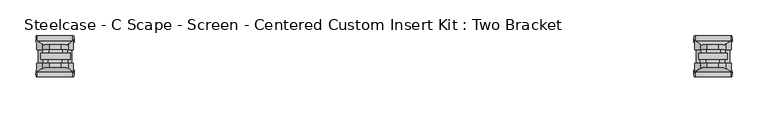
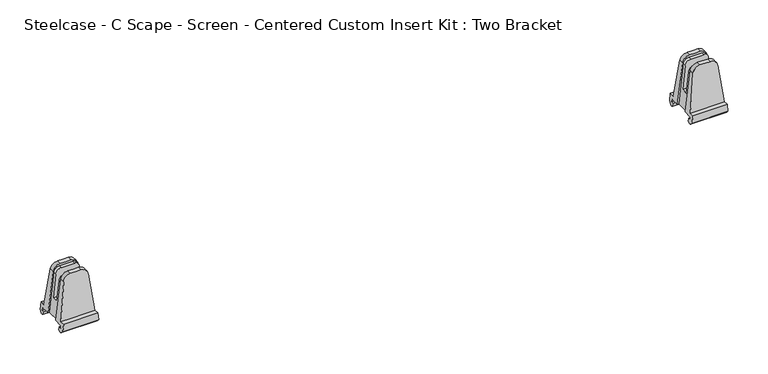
"""IFC4 building model written with IfcOpenShell, lengths in millimetres: furniture geometry, Steelcase - C Scape - Screen - Centered Custom Insert Kit : Two Bracket."""

from ifc_helpers import new_model, si_unit, frame, origin, place, context, project, spatial, circle_curve, ellipse_curve, source, transform, mapped, element, save
from ifc_brep_helpers import plane_surface, cylinder_surface, advanced_brep


def steelcase_c_scape_screen_centered_custom_insert_kit_two_697168f0(model_context):
    return source(origin(), model_context, "Body", "AdvancedBrep", [
        advanced_brep(
        [(981.2649563, -3.1752569, 793.5976353), (988.8687419, -3.1752569, 793.5976353), (996.5149668, -3.1752569, 793.5976353), (996.5149668, 3.17474, 793.5976353), (988.8687419, 3.17474, 793.5976353), (981.2649563, 3.17474, 793.5976353), (970.9537645, -3.1752569, 784.4759275), (963.5101946, -3.1752569, 723.9), (965.5940991, -3.1752569, 723.9), (971.8526704, -3.1752569, 783.4463283), (979.8545253, -3.1752569, 790.6512308), (999.4524021, -3.1752569, 790.6512308), (1005.7679246, -3.1752569, 784.9620449), (1012.1570489, -3.1752569, 723.9), (1014.2697285, -3.1752569, 723.9), (1006.8261585, -3.1752569, 784.4759275), (963.5101946, 10.1600734, 723.9), (1014.2697285, 10.1600734, 723.9), (1012.1570489, -22.2252569, 723.9), (1014.2697285, -22.2250614, 723.9), (1014.2697285, -35.5603917, 723.9), (963.5101946, -35.5603917, 723.9), (963.5101946, -22.2250614, 723.9), (965.5940991, -22.2250614, 723.9), (963.0415467, 10.1600734, 720.086134), (1014.7383764, 10.1600734, 720.086134), (963.0415467, 6.7312129, 720.086134), (1014.7383764, 6.7312129, 720.086134), (962.5109536, 6.7312129, 715.7681562), (1015.2689695, 6.7312129, 715.7681562), (962.3003055, 9.1438564, 714.375), (1015.4371783, 9.1438564, 714.375), (962.3397626, 11.8111354, 714.375), (1015.4371783, 11.8111354, 714.375), (962.8079371, 15.6202052, 718.1850145), (1014.9719859, 15.6202052, 718.1850145), (964.1562753, 15.6202052, 729.1578186), (1013.6236478, 15.6202052, 729.1578186), (964.1562753, 8.8135415, 729.1578186), (1013.6236478, 8.8135415, 729.1578186), (970.9537645, 3.9729344, 784.4759275), (1006.8261585, 3.9729344, 784.4759275), (964.1562753, -34.2138598, 729.1578186), (1013.6236478, -34.2138598, 729.1578186), (1006.8261585, -29.3732527, 784.4759275), (996.5149668, -28.5750583, 793.5976353), (988.8687419, -28.5750583, 793.5976353), (981.2649563, -28.5750583, 793.5976353), (970.9537645, -29.3732527, 784.4759275), (964.1562753, -41.0205235, 729.1578186), (1013.6236478, -41.0205235, 729.1578186), (962.8079371, -41.0205235, 718.1850145), (1014.9719859, -41.0205235, 718.1850145), (962.3003055, -37.2114537, 714.375), (1015.4371783, -37.2114537, 714.375), (962.3397626, -34.5441746, 714.375), (1015.4371783, -34.5441746, 714.375), (962.5109536, -32.1315312, 715.7681562), (1015.2689695, -32.1315312, 715.7681562), (963.0415467, -32.1315312, 720.086134), (1014.7383764, -32.1315312, 720.086134), (963.0415467, -35.5603917, 720.086134), (1014.7383764, -35.5603917, 720.086134), (981.2649563, -22.2250614, 793.5976353), (988.8687419, -22.2250614, 793.5976353), (996.5149668, -22.2250614, 793.5976353), (1006.8261585, -22.2250614, 784.4759275), (1006.3100885, -22.2250614, 779.780484), (998.5284113, -22.2250614, 786.79042), (979.001828, -22.2250614, 786.79042), (971.4935976, -22.2250614, 780.0299789), (970.9537645, -22.2250614, 784.4759275), (979.001828, -17.4500569, 786.79042), (998.5284113, -17.4500569, 786.79042), (1006.3100885, -17.4500569, 779.780484), (1009.5950426, -17.4500569, 748.3855694), (968.1676361, -17.4500569, 748.3855694), (971.4935976, -17.4500569, 780.0299789), (968.1676361, -7.9504569, 748.3855694), (971.8526704, -7.9504569, 783.4463283), (1005.7679246, -7.9504569, 784.9620449), (1009.5950426, -7.9504569, 748.3855694), (979.8545253, -7.9504569, 790.6512308), (999.4524021, -7.9504569, 790.6512308)],
        [
            (0, 1),
            (1, 2),
            (2, 3),
            (3, 4),
            (4, 5),
            (5, 0),
            (0, 6, circle_curve(frame((981.2649563, -3.1752569, 783.2088883), z_axis=(0.0, -1.0, 0.0), x_axis=(-1.0, 0.0, 0.0)), 10.388747)),
            (6, 7),
            (7, 8),
            (8, 9),
            (9, 10, circle_curve(frame((979.8545253, -3.1752569, 782.6052995), z_axis=(0.0, 1.0, 0.0), x_axis=(1.0, 0.0, 0.0)), 8.0459313)),
            (10, 11),
            (11, 12, circle_curve(frame((999.4524021, -3.1752569, 784.3012308), z_axis=(0.0, 1.0, 0.0), x_axis=(1.0, 0.0, 0.0)), 6.35)),
            (12, 13),
            (13, 14),
            (14, 15),
            (15, 2, circle_curve(frame((996.5149668, -3.1752569, 783.2088883), z_axis=(0.0, -1.0, 0.0), x_axis=(1.0, 0.0, 0.0)), 10.388747)),
            (16, 17),
            (17, 14),
            (13, 18),
            (18, 19),
            (19, 20),
            (20, 21),
            (21, 22),
            (22, 23),
            (23, 8),
            (7, 16),
            (16, 24),
            (24, 25),
            (25, 17),
            (24, 26),
            (26, 27),
            (27, 25),
            (26, 28),
            (28, 29),
            (29, 27),
            (30, 31),
            (31, 29),
            (28, 30),
            (30, 32),
            (32, 33),
            (33, 31),
            (32, 34),
            (34, 35),
            (35, 33),
            (34, 36),
            (36, 37),
            (37, 35),
            (36, 38),
            (38, 39),
            (39, 37),
            (38, 40),
            (40, 5, ellipse_curve(frame((981.2649563, 4.0838066, 783.2088883), z_axis=(0.0, 0.9961932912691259, 0.08717182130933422), x_axis=(0.0, 0.08717182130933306, -0.9961932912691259)), 10.428445, 10.388747)),
            (3, 41, ellipse_curve(frame((996.5149668, 4.0838066, 783.2088883), z_axis=(0.0, 0.9961932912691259, 0.08717182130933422), x_axis=(0.0, 0.08717182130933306, -0.9961932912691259)), 10.428445, 10.388747)),
            (41, 39),
            (42, 43),
            (43, 44),
            (44, 45, ellipse_curve(frame((996.5149668, -29.4841248, 783.2088883), z_axis=(0.0, -0.9961932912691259, 0.08717182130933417), x_axis=(0.0, 0.08717182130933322, 0.996193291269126)), 10.428445, 10.388747)),
            (45, 46),
            (46, 47),
            (47, 48, ellipse_curve(frame((981.2649563, -29.4841248, 783.2088883), z_axis=(0.0, -0.9961932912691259, 0.08717182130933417), x_axis=(0.0, 0.08717182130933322, 0.996193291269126)), 10.428445, 10.388747)),
            (48, 42),
            (42, 49),
            (49, 50),
            (50, 43),
            (49, 51),
            (51, 52),
            (52, 50),
            (53, 54),
            (54, 52),
            (51, 53),
            (53, 55),
            (55, 56),
            (56, 54),
            (55, 57),
            (57, 58),
            (58, 56),
            (57, 59),
            (59, 60),
            (60, 58),
            (59, 61),
            (61, 62),
            (62, 60),
            (61, 21),
            (20, 62),
            (63, 64),
            (64, 65),
            (65, 66, circle_curve(frame((996.5149668, -22.2250614, 783.2088883), z_axis=(0.0, 1.0, 0.0), x_axis=(1.0, 0.0, 0.0)), 10.388747)),
            (66, 19),
            (18, 67),
            (67, 68, circle_curve(frame((998.5284113, -22.2250614, 778.9662613), z_axis=(0.0, -1.0, 0.0), x_axis=(1.0, 0.0, 0.0)), 7.8241587)),
            (68, 69),
            (69, 70, circle_curve(frame((979.001828, -22.2250614, 779.2408321), z_axis=(0.0, -1.0, 0.0), x_axis=(1.0, 0.0, 0.0)), 7.5495878)),
            (70, 23),
            (22, 71),
            (71, 63, circle_curve(frame((981.2649563, -22.2250614, 783.2088883), z_axis=(0.0, 1.0, 0.0), x_axis=(-1.0, 0.0, 0.0)), 10.388747)),
            (45, 65),
            (63, 47),
            (6, 40),
            (48, 71),
            (15, 41),
            (44, 66),
            (72, 73),
            (73, 74, circle_curve(frame((998.5284113, -17.4500569, 778.9662613), z_axis=(0.0, 1.0, 0.0), x_axis=(1.0, 0.0, 0.0)), 7.8241587)),
            (74, 75),
            (75, 76),
            (76, 77),
            (77, 72, circle_curve(frame((979.001828, -17.4500569, 779.2408321), z_axis=(0.0, 1.0, 0.0), x_axis=(1.0, 0.0, 0.0)), 7.5495878)),
            (77, 70),
            (69, 72),
            (76, 78),
            (78, 79),
            (79, 9),
            (12, 80),
            (80, 81),
            (81, 75),
            (74, 67),
            (73, 68),
            (82, 79, circle_curve(frame((979.8545253, -7.9504569, 782.6052995), z_axis=(0.0, -1.0, 0.0), x_axis=(1.0, 0.0, 0.0)), 8.0459313)),
            (78, 81),
            (80, 83, circle_curve(frame((999.4524021, -7.9504569, 784.3012308), z_axis=(0.0, -1.0, 0.0), x_axis=(1.0, 0.0, 0.0)), 6.35)),
            (83, 82),
            (82, 10),
            (11, 83),
        ],
        [
            plane_surface(frame((1015.4371783, 3.17474, 793.5976353), z_axis=(0.0, 0.0, 1.0), x_axis=(-1.0, 0.0, 0.0))),
            plane_surface(frame((1015.4371783, -3.1752569, 793.5976353), z_axis=(0.0, -1.0, 0.0), x_axis=(-1.0, 0.0, 0.0))),
            plane_surface(frame((1015.4371783, -3.1752569, 723.9), z_axis=(0.0, 0.0, -1.0), x_axis=(-1.0, 0.0, 0.0))),
            plane_surface(frame((1015.4371783, 10.1600734, 723.9), z_axis=(0.0, -1.0, 0.0), x_axis=(-1.0, 0.0, 0.0))),
            plane_surface(frame((1015.4371783, 10.1600734, 720.086134), z_axis=(0.0, 0.0, 1.0), x_axis=(-1.0, 0.0, 0.0))),
            plane_surface(frame((1015.4371783, 6.7312129, 720.086134), z_axis=(0.0, -1.0, 0.0), x_axis=(-1.0, 0.0, 0.0))),
            plane_surface(frame((1015.4371783, 6.7312129, 715.7681562), z_axis=(0.0, -0.5000581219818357, -0.8659918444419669), x_axis=(-1.0, 0.0, 0.0))),
            plane_surface(frame((1015.4371783, 9.1438564, 714.375), z_axis=(0.0, 0.0, -1.0), x_axis=(-1.0, 0.0, 0.0))),
            plane_surface(frame((1015.4371783, 11.8111354, 714.375), z_axis=(0.0, 0.7071944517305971, -0.7070190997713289), x_axis=(-1.0, 0.0, 0.0))),
            plane_surface(frame((1015.4371783, 15.6202052, 718.1850145), z_axis=(0.0, 1.0, 0.0), x_axis=(-1.0, 0.0, 0.0))),
            plane_surface(frame((1015.4371783, 15.6202052, 729.1578186), z_axis=(0.0, 0.0, 1.0), x_axis=(-1.0, 0.0, 0.0))),
            plane_surface(frame((1015.4371783, 8.8135415, 729.1578186), z_axis=(0.0, 0.9961932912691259, 0.08717182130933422), x_axis=(-1.0, 0.0, 0.0))),
            plane_surface(frame((1015.4371783, -28.5750583, 793.5976353), z_axis=(0.0, -0.9961932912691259, 0.08717182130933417), x_axis=(-1.0, 0.0, 0.0))),
            plane_surface(frame((1015.4371783, -34.2138598, 729.1578186), z_axis=(0.0, 0.0, 1.0), x_axis=(-1.0, 0.0, 0.0))),
            plane_surface(frame((1015.4371783, -41.0205235, 729.1578186), z_axis=(0.0, -1.0, 0.0), x_axis=(-1.0, 0.0, 0.0))),
            plane_surface(frame((1015.4371783, -41.0205235, 718.1850145), z_axis=(0.0, -0.7071944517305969, -0.707019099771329), x_axis=(-1.0, 0.0, 0.0))),
            plane_surface(frame((1015.4371783, -37.2114537, 714.375), z_axis=(0.0, 0.0, -1.0), x_axis=(-1.0, 0.0, 0.0))),
            plane_surface(frame((1015.4371783, -34.5441746, 714.375), z_axis=(0.0, 0.5000581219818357, -0.8659918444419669), x_axis=(-1.0, 0.0, 0.0))),
            plane_surface(frame((1015.4371783, -32.1315312, 715.7681562), z_axis=(0.0, 1.0, 0.0), x_axis=(-1.0, 0.0, 0.0))),
            plane_surface(frame((1015.4371783, -32.1315312, 720.086134), z_axis=(0.0, 0.0, 1.0), x_axis=(-1.0, 0.0, 0.0))),
            plane_surface(frame((1015.4371783, -35.5603917, 720.086134), z_axis=(0.0, 1.0, 0.0), x_axis=(-1.0, 0.0, 0.0))),
            plane_surface(frame((1015.4371783, -22.2250614, 723.9), z_axis=(0.0, 1.0, 0.0), x_axis=(-1.0, 0.0, 0.0))),
            plane_surface(frame((1015.4371783, -22.2250614, 793.5976353), z_axis=(0.0, 0.0, 1.0), x_axis=(-1.0, 0.0, 0.0))),
            plane_surface(frame((962.3397626, -43.2064559, 714.375), z_axis=(-0.9925346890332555, 0.0, 0.12196266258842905), x_axis=(0.0, 1.0, 0.0))),
            cylinder_surface(frame((981.2649563, 17.5208706, 783.2088883), z_axis=(0.0, 1.0, 0.0), x_axis=(-1.0, 0.0, 0.0)), 10.388747),
            cylinder_surface(frame((996.5149668, 17.5208706, 783.2088883), z_axis=(0.0, 1.0, 0.0), x_axis=(1.0, 0.0, 0.0)), 10.388747),
            plane_surface(frame((1006.8261585, -43.2064559, 784.4759275), z_axis=(0.9925346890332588, 0.0, 0.12196266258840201), x_axis=(0.0, 1.0, 0.0))),
            plane_surface(frame((986.5514158, -17.4500569, 779.2408321), z_axis=(0.0, 1.0, 0.0), x_axis=(0.0, 0.0, -1.0))),
            cylinder_surface(frame((979.001828, -17.4500569, 779.2408321), z_axis=(0.0, -1.0, 0.0), x_axis=(1.0, 0.0, 0.0)), 7.5495878),
            plane_surface(frame((971.4935976, -22.2252569, 780.0299789), z_axis=(-0.9945218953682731, 0.0, 0.10452846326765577), x_axis=(0.0, 1.0, 0.0))),
            plane_surface(frame((1012.1570489, -22.2252569, 723.9), z_axis=(0.9945704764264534, 0.0, 0.10406520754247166), x_axis=(0.0, 1.0, 0.0))),
            cylinder_surface(frame((998.5284113, -17.4500569, 778.9662613), z_axis=(0.0, -1.0, 0.0), x_axis=(1.0, 0.0, 0.0)), 7.8241587),
            plane_surface(frame((998.5284113, -22.2252569, 786.79042), z_axis=(0.0, 0.0, 1.0), x_axis=(0.0, 1.0, 0.0))),
            plane_surface(frame((987.9004566, -7.9504569, 782.6052995), z_axis=(0.0, -1.0, 0.0), x_axis=(0.0, 0.0, 1.0))),
            cylinder_surface(frame((979.8545253, -3.1752569, 782.6052995), z_axis=(0.0, -1.0, 0.0), x_axis=(1.0, 0.0, 0.0)), 8.0459313),
            cylinder_surface(frame((999.4524021, -3.1752569, 784.3012308), z_axis=(0.0, -1.0, 0.0), x_axis=(1.0, 0.0, 0.0)), 6.35),
            plane_surface(frame((999.4524021, -7.9504569, 790.6512308), z_axis=(0.0, 0.0, 1.0), x_axis=(0.0, 1.0, 0.0))),
            plane_surface(frame((1009.5950426, -17.4500569, 748.3855694), z_axis=(0.0, 0.0, 1.0), x_axis=(0.0, 1.0, 0.0))),
        ],
        [
            (0, [[1, 2, 3, 4, 5, 6]]),
            (1, [[-1, 7, 8, 9, 10, 11, 12, 13, 14, 15, 16, 17, -2]]),
            (2, [[18, 19, -15, 20, 21, 22, 23, 24, 25, 26, -9, 27]]),
            (3, [[-18, 28, 29, 30]]),
            (4, [[-29, 31, 32, 33]]),
            (5, [[-32, 34, 35, 36]]),
            (6, [[37, 38, -35, 39]]),
            (7, [[-37, 40, 41, 42]]),
            (8, [[-41, 43, 44, 45]]),
            (9, [[-44, 46, 47, 48]]),
            (10, [[-47, 49, 50, 51]]),
            (11, [[-50, 52, 53, -5, -4, 54, 55]]),
            (12, [[56, 57, 58, 59, 60, 61, 62]]),
            (13, [[-56, 63, 64, 65]]),
            (14, [[-64, 66, 67, 68]]),
            (15, [[69, 70, -67, 71]]),
            (16, [[-69, 72, 73, 74]]),
            (17, [[-73, 75, 76, 77]]),
            (18, [[-76, 78, 79, 80]]),
            (19, [[-79, 81, 82, 83]]),
            (20, [[-82, 84, -23, 85]]),
            (21, [[86, 87, 88, 89, -21, 90, 91, 92, 93, 94, -25, 95, 96]]),
            (22, [[-59, 97, -87, -86, 98, -60]]),
            (23, [[99, -52, -49, -46, -43, -40, -39, -34, -31, -28, -27, -8]]),
            (23, [[100, -95, -24, -84, -81, -78, -75, -72, -71, -66, -63, -62]]),
            (24, [[-99, -7, -6, -53]]),
            (24, [[-100, -61, -98, -96]]),
            (25, [[101, -54, -3, -17]]),
            (25, [[102, -88, -97, -58]]),
            (26, [[-101, -16, -19, -30, -33, -36, -38, -42, -45, -48, -51, -55]]),
            (26, [[-102, -57, -65, -68, -70, -74, -77, -80, -83, -85, -22, -89]]),
            (27, [[103, 104, 105, 106, 107, 108]]),
            (28, [[-108, 109, -93, 110]]),
            (29, [[-109, -107, 111, 112, 113, -10, -26, -94]]),
            (30, [[-20, -14, 114, 115, 116, -105, 117, -90]]),
            (31, [[-104, 118, -91, -117]]),
            (32, [[-103, -110, -92, -118]]),
            (33, [[119, -112, 120, -115, 121, 122]]),
            (34, [[-119, 123, -11, -113]]),
            (35, [[-121, -114, -13, 124]]),
            (36, [[-122, -124, -12, -123]]),
            (37, [[-111, -106, -116, -120]]),
        ],
    ),
        advanced_brep(
        [(67.0173627, -3.1752569, 793.5976353), (74.6211483, -3.1752569, 793.5976353), (82.2673732, -3.1752569, 793.5976353), (82.2673732, 3.17474, 793.5976353), (74.6211483, 3.17474, 793.5976353), (67.0173627, 3.17474, 793.5976353), (56.706171, -3.1752569, 784.4759275), (49.262601, -3.1752569, 723.9), (51.3465055, -3.1752569, 723.9), (57.6050768, -3.1752569, 783.4463283), (65.6069317, -3.1752569, 790.6512308), (85.2048085, -3.1752569, 790.6512308), (91.520331, -3.1752569, 784.9620449), (97.9094553, -3.1752569, 723.9), (100.0221349, -3.1752569, 723.9), (92.578565, -3.1752569, 784.4759275), (49.262601, 10.1600734, 723.9), (100.0221349, 10.1600734, 723.9), (97.9094553, -22.2252569, 723.9), (100.0221349, -22.2250614, 723.9), (100.0221349, -35.5603917, 723.9), (49.262601, -35.5603917, 723.9), (49.262601, -22.2250614, 723.9), (51.3465055, -22.2250614, 723.9), (48.7939531, 10.1600734, 720.086134), (100.4907828, 10.1600734, 720.086134), (48.7939531, 6.7312129, 720.086134), (100.4907828, 6.7312129, 720.086134), (48.26336, 6.7312129, 715.7681562), (101.0213759, 6.7312129, 715.7681562), (48.0527119, 9.1438564, 714.375), (101.1895848, 9.1438564, 714.375), (48.092169, 11.8111354, 714.375), (101.1895848, 11.8111354, 714.375), (48.5603436, 15.6202052, 718.1850145), (100.7243923, 15.6202052, 718.1850145), (49.9086817, 15.6202052, 729.1578186), (99.3760542, 15.6202052, 729.1578186), (49.9086817, 8.8135415, 729.1578186), (99.3760542, 8.8135415, 729.1578186), (56.706171, 3.9729344, 784.4759275), (92.578565, 3.9729344, 784.4759275), (49.9086817, -34.2138598, 729.1578186), (99.3760542, -34.2138598, 729.1578186), (92.578565, -29.3732527, 784.4759275), (82.2673732, -28.5750583, 793.5976353), (74.6211483, -28.5750583, 793.5976353), (67.0173627, -28.5750583, 793.5976353), (56.706171, -29.3732527, 784.4759275), (49.9086817, -41.0205235, 729.1578186), (99.3760542, -41.0205235, 729.1578186), (48.5603436, -41.0205235, 718.1850145), (100.7243923, -41.0205235, 718.1850145), (48.0527119, -37.2114537, 714.375), (101.1895848, -37.2114537, 714.375), (48.092169, -34.5441746, 714.375), (101.1895848, -34.5441746, 714.375), (48.26336, -32.1315312, 715.7681562), (101.0213759, -32.1315312, 715.7681562), (48.7939531, -32.1315312, 720.086134), (100.4907828, -32.1315312, 720.086134), (48.7939531, -35.5603917, 720.086134), (100.4907828, -35.5603917, 720.086134), (67.0173627, -22.2250614, 793.5976353), (74.6211483, -22.2250614, 793.5976353), (82.2673732, -22.2250614, 793.5976353), (92.578565, -22.2250614, 784.4759275), (92.0624949, -22.2250614, 779.780484), (84.2808177, -22.2250614, 786.79042), (64.7542344, -22.2250614, 786.79042), (57.246004, -22.2250614, 780.0299789), (56.706171, -22.2250614, 784.4759275), (64.7542344, -17.4500569, 786.79042), (84.2808177, -17.4500569, 786.79042), (92.0624949, -17.4500569, 779.780484), (95.347449, -17.4500569, 748.3855694), (53.9200426, -17.4500569, 748.3855694), (57.246004, -17.4500569, 780.0299789), (53.9200426, -7.9504569, 748.3855694), (57.6050768, -7.9504569, 783.4463283), (91.520331, -7.9504569, 784.9620449), (95.347449, -7.9504569, 748.3855694), (65.6069317, -7.9504569, 790.6512308), (85.2048085, -7.9504569, 790.6512308)],
        [
            (0, 1),
            (1, 2),
            (2, 3),
            (3, 4),
            (4, 5),
            (5, 0),
            (0, 6, circle_curve(frame((67.0173627, -3.1752569, 783.2088883), z_axis=(0.0, -1.0, 0.0), x_axis=(-1.0, 0.0, 0.0)), 10.388747)),
            (6, 7),
            (7, 8),
            (8, 9),
            (9, 10, circle_curve(frame((65.6069317, -3.1752569, 782.6052995), z_axis=(0.0, 1.0, 0.0), x_axis=(1.0, 0.0, 0.0)), 8.0459313)),
            (10, 11),
            (11, 12, circle_curve(frame((85.2048085, -3.1752569, 784.3012308), z_axis=(0.0, 1.0, 0.0), x_axis=(1.0, 0.0, 0.0)), 6.35)),
            (12, 13),
            (13, 14),
            (14, 15),
            (15, 2, circle_curve(frame((82.2673732, -3.1752569, 783.2088883), z_axis=(0.0, -1.0, 0.0), x_axis=(1.0, 0.0, 0.0)), 10.388747)),
            (16, 17),
            (17, 14),
            (13, 18),
            (18, 19),
            (19, 20),
            (20, 21),
            (21, 22),
            (22, 23),
            (23, 8),
            (7, 16),
            (16, 24),
            (24, 25),
            (25, 17),
            (24, 26),
            (26, 27),
            (27, 25),
            (26, 28),
            (28, 29),
            (29, 27),
            (30, 31),
            (31, 29),
            (28, 30),
            (30, 32),
            (32, 33),
            (33, 31),
            (32, 34),
            (34, 35),
            (35, 33),
            (34, 36),
            (36, 37),
            (37, 35),
            (36, 38),
            (38, 39),
            (39, 37),
            (38, 40),
            (40, 5, ellipse_curve(frame((67.0173627, 4.0838066, 783.2088883), z_axis=(0.0, 0.9961932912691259, 0.08717182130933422), x_axis=(0.0, 0.08717182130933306, -0.9961932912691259)), 10.428445, 10.388747)),
            (3, 41, ellipse_curve(frame((82.2673732, 4.0838066, 783.2088883), z_axis=(0.0, 0.9961932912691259, 0.08717182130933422), x_axis=(0.0, 0.08717182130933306, -0.9961932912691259)), 10.428445, 10.388747)),
            (41, 39),
            (42, 43),
            (43, 44),
            (44, 45, ellipse_curve(frame((82.2673732, -29.4841248, 783.2088883), z_axis=(0.0, -0.9961932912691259, 0.08717182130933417), x_axis=(0.0, 0.08717182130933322, 0.996193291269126)), 10.428445, 10.388747)),
            (45, 46),
            (46, 47),
            (47, 48, ellipse_curve(frame((67.0173627, -29.4841248, 783.2088883), z_axis=(0.0, -0.9961932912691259, 0.08717182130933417), x_axis=(0.0, 0.08717182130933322, 0.996193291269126)), 10.428445, 10.388747)),
            (48, 42),
            (42, 49),
            (49, 50),
            (50, 43),
            (49, 51),
            (51, 52),
            (52, 50),
            (53, 54),
            (54, 52),
            (51, 53),
            (53, 55),
            (55, 56),
            (56, 54),
            (55, 57),
            (57, 58),
            (58, 56),
            (57, 59),
            (59, 60),
            (60, 58),
            (59, 61),
            (61, 62),
            (62, 60),
            (61, 21),
            (20, 62),
            (63, 64),
            (64, 65),
            (65, 66, circle_curve(frame((82.2673732, -22.2250614, 783.2088883), z_axis=(0.0, 1.0, 0.0), x_axis=(1.0, 0.0, 0.0)), 10.388747)),
            (66, 19),
            (18, 67),
            (67, 68, circle_curve(frame((84.2808177, -22.2250614, 778.9662613), z_axis=(0.0, -1.0, 0.0), x_axis=(1.0, 0.0, 0.0)), 7.8241587)),
            (68, 69),
            (69, 70, circle_curve(frame((64.7542344, -22.2250614, 779.2408321), z_axis=(0.0, -1.0, 0.0), x_axis=(1.0, 0.0, 0.0)), 7.5495878)),
            (70, 23),
            (22, 71),
            (71, 63, circle_curve(frame((67.0173627, -22.2250614, 783.2088883), z_axis=(0.0, 1.0, 0.0), x_axis=(-1.0, 0.0, 0.0)), 10.388747)),
            (45, 65),
            (63, 47),
            (6, 40),
            (48, 71),
            (15, 41),
            (44, 66),
            (72, 73),
            (73, 74, circle_curve(frame((84.2808177, -17.4500569, 778.9662613), z_axis=(0.0, 1.0, 0.0), x_axis=(1.0, 0.0, 0.0)), 7.8241587)),
            (74, 75),
            (75, 76),
            (76, 77),
            (77, 72, circle_curve(frame((64.7542344, -17.4500569, 779.2408321), z_axis=(0.0, 1.0, 0.0), x_axis=(1.0, 0.0, 0.0)), 7.5495878)),
            (77, 70),
            (69, 72),
            (76, 78),
            (78, 79),
            (79, 9),
            (12, 80),
            (80, 81),
            (81, 75),
            (74, 67),
            (73, 68),
            (82, 79, circle_curve(frame((65.6069317, -7.9504569, 782.6052995), z_axis=(0.0, -1.0, 0.0), x_axis=(1.0, 0.0, 0.0)), 8.0459313)),
            (78, 81),
            (80, 83, circle_curve(frame((85.2048085, -7.9504569, 784.3012308), z_axis=(0.0, -1.0, 0.0), x_axis=(1.0, 0.0, 0.0)), 6.35)),
            (83, 82),
            (82, 10),
            (11, 83),
        ],
        [
            plane_surface(frame((101.1895848, 3.17474, 793.5976353), z_axis=(0.0, 0.0, 1.0), x_axis=(-1.0, 0.0, 0.0))),
            plane_surface(frame((101.1895848, -3.1752569, 793.5976353), z_axis=(0.0, -1.0, 0.0), x_axis=(-1.0, 0.0, 0.0))),
            plane_surface(frame((101.1895848, -3.1752569, 723.9), z_axis=(0.0, 0.0, -1.0), x_axis=(-1.0, 0.0, 0.0))),
            plane_surface(frame((101.1895848, 10.1600734, 723.9), z_axis=(0.0, -1.0, 0.0), x_axis=(-1.0, 0.0, 0.0))),
            plane_surface(frame((101.1895848, 10.1600734, 720.086134), z_axis=(0.0, 0.0, 1.0), x_axis=(-1.0, 0.0, 0.0))),
            plane_surface(frame((101.1895848, 6.7312129, 720.086134), z_axis=(0.0, -1.0, 0.0), x_axis=(-1.0, 0.0, 0.0))),
            plane_surface(frame((101.1895848, 6.7312129, 715.7681562), z_axis=(0.0, -0.5000581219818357, -0.8659918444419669), x_axis=(-1.0, 0.0, 0.0))),
            plane_surface(frame((101.1895848, 9.1438564, 714.375), z_axis=(0.0, 0.0, -1.0), x_axis=(-1.0, 0.0, 0.0))),
            plane_surface(frame((101.1895848, 11.8111354, 714.375), z_axis=(0.0, 0.7071944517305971, -0.7070190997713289), x_axis=(-1.0, 0.0, 0.0))),
            plane_surface(frame((101.1895848, 15.6202052, 718.1850145), z_axis=(0.0, 1.0, 0.0), x_axis=(-1.0, 0.0, 0.0))),
            plane_surface(frame((101.1895848, 15.6202052, 729.1578186), z_axis=(0.0, 0.0, 1.0), x_axis=(-1.0, 0.0, 0.0))),
            plane_surface(frame((101.1895848, 8.8135415, 729.1578186), z_axis=(0.0, 0.9961932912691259, 0.08717182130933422), x_axis=(-1.0, 0.0, 0.0))),
            plane_surface(frame((101.1895848, -28.5750583, 793.5976353), z_axis=(0.0, -0.9961932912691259, 0.08717182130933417), x_axis=(-1.0, 0.0, 0.0))),
            plane_surface(frame((101.1895848, -34.2138598, 729.1578186), z_axis=(0.0, 0.0, 1.0), x_axis=(-1.0, 0.0, 0.0))),
            plane_surface(frame((101.1895848, -41.0205235, 729.1578186), z_axis=(0.0, -1.0, 0.0), x_axis=(-1.0, 0.0, 0.0))),
            plane_surface(frame((101.1895848, -41.0205235, 718.1850145), z_axis=(0.0, -0.7071944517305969, -0.707019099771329), x_axis=(-1.0, 0.0, 0.0))),
            plane_surface(frame((101.1895848, -37.2114537, 714.375), z_axis=(0.0, 0.0, -1.0), x_axis=(-1.0, 0.0, 0.0))),
            plane_surface(frame((101.1895848, -34.5441746, 714.375), z_axis=(0.0, 0.5000581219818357, -0.8659918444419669), x_axis=(-1.0, 0.0, 0.0))),
            plane_surface(frame((101.1895848, -32.1315312, 715.7681562), z_axis=(0.0, 1.0, 0.0), x_axis=(-1.0, 0.0, 0.0))),
            plane_surface(frame((101.1895848, -32.1315312, 720.086134), z_axis=(0.0, 0.0, 1.0), x_axis=(-1.0, 0.0, 0.0))),
            plane_surface(frame((101.1895848, -35.5603917, 720.086134), z_axis=(0.0, 1.0, 0.0), x_axis=(-1.0, 0.0, 0.0))),
            plane_surface(frame((101.1895848, -22.2250614, 723.9), z_axis=(0.0, 1.0, 0.0), x_axis=(-1.0, 0.0, 0.0))),
            plane_surface(frame((101.1895848, -22.2250614, 793.5976353), z_axis=(0.0, 0.0, 1.0), x_axis=(-1.0, 0.0, 0.0))),
            plane_surface(frame((48.092169, -43.2064559, 714.375), z_axis=(-0.9925346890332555, 0.0, 0.12196266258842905), x_axis=(0.0, 1.0, 0.0))),
            cylinder_surface(frame((67.0173627, 17.5208706, 783.2088883), z_axis=(0.0, 1.0, 0.0), x_axis=(-1.0, 0.0, 0.0)), 10.388747),
            cylinder_surface(frame((82.2673732, 17.5208706, 783.2088883), z_axis=(0.0, 1.0, 0.0), x_axis=(1.0, 0.0, 0.0)), 10.388747),
            plane_surface(frame((92.578565, -43.2064559, 784.4759275), z_axis=(0.9925346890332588, 0.0, 0.12196266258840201), x_axis=(0.0, 1.0, 0.0))),
            plane_surface(frame((72.3038223, -17.4500569, 779.2408321), z_axis=(0.0, 1.0, 0.0), x_axis=(0.0, 0.0, -1.0))),
            cylinder_surface(frame((64.7542344, -17.4500569, 779.2408321), z_axis=(0.0, -1.0, 0.0), x_axis=(1.0, 0.0, 0.0)), 7.5495878),
            plane_surface(frame((57.246004, -22.2252569, 780.0299789), z_axis=(-0.9945218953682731, 0.0, 0.10452846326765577), x_axis=(0.0, 1.0, 0.0))),
            plane_surface(frame((97.9094553, -22.2252569, 723.9), z_axis=(0.9945704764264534, 0.0, 0.10406520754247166), x_axis=(0.0, 1.0, 0.0))),
            cylinder_surface(frame((84.2808177, -17.4500569, 778.9662613), z_axis=(0.0, -1.0, 0.0), x_axis=(1.0, 0.0, 0.0)), 7.8241587),
            plane_surface(frame((84.2808177, -22.2252569, 786.79042), z_axis=(0.0, 0.0, 1.0), x_axis=(0.0, 1.0, 0.0))),
            plane_surface(frame((73.652863, -7.9504569, 782.6052995), z_axis=(0.0, -1.0, 0.0), x_axis=(0.0, 0.0, 1.0))),
            cylinder_surface(frame((65.6069317, -3.1752569, 782.6052995), z_axis=(0.0, -1.0, 0.0), x_axis=(1.0, 0.0, 0.0)), 8.0459313),
            cylinder_surface(frame((85.2048085, -3.1752569, 784.3012308), z_axis=(0.0, -1.0, 0.0), x_axis=(1.0, 0.0, 0.0)), 6.35),
            plane_surface(frame((85.2048085, -7.9504569, 790.6512308), z_axis=(0.0, 0.0, 1.0), x_axis=(0.0, 1.0, 0.0))),
            plane_surface(frame((95.347449, -17.4500569, 748.3855694), z_axis=(0.0, 0.0, 1.0), x_axis=(0.0, 1.0, 0.0))),
        ],
        [
            (0, [[1, 2, 3, 4, 5, 6]]),
            (1, [[-1, 7, 8, 9, 10, 11, 12, 13, 14, 15, 16, 17, -2]]),
            (2, [[18, 19, -15, 20, 21, 22, 23, 24, 25, 26, -9, 27]]),
            (3, [[-18, 28, 29, 30]]),
            (4, [[-29, 31, 32, 33]]),
            (5, [[-32, 34, 35, 36]]),
            (6, [[37, 38, -35, 39]]),
            (7, [[-37, 40, 41, 42]]),
            (8, [[-41, 43, 44, 45]]),
            (9, [[-44, 46, 47, 48]]),
            (10, [[-47, 49, 50, 51]]),
            (11, [[-50, 52, 53, -5, -4, 54, 55]]),
            (12, [[56, 57, 58, 59, 60, 61, 62]]),
            (13, [[-56, 63, 64, 65]]),
            (14, [[-64, 66, 67, 68]]),
            (15, [[69, 70, -67, 71]]),
            (16, [[-69, 72, 73, 74]]),
            (17, [[-73, 75, 76, 77]]),
            (18, [[-76, 78, 79, 80]]),
            (19, [[-79, 81, 82, 83]]),
            (20, [[-82, 84, -23, 85]]),
            (21, [[86, 87, 88, 89, -21, 90, 91, 92, 93, 94, -25, 95, 96]]),
            (22, [[-59, 97, -87, -86, 98, -60]]),
            (23, [[99, -52, -49, -46, -43, -40, -39, -34, -31, -28, -27, -8]]),
            (23, [[100, -95, -24, -84, -81, -78, -75, -72, -71, -66, -63, -62]]),
            (24, [[-99, -7, -6, -53]]),
            (24, [[-100, -61, -98, -96]]),
            (25, [[101, -54, -3, -17]]),
            (25, [[102, -88, -97, -58]]),
            (26, [[-101, -16, -19, -30, -33, -36, -38, -42, -45, -48, -51, -55]]),
            (26, [[-102, -57, -65, -68, -70, -74, -77, -80, -83, -85, -22, -89]]),
            (27, [[103, 104, 105, 106, 107, 108]]),
            (28, [[-108, 109, -93, 110]]),
            (29, [[-109, -107, 111, 112, 113, -10, -26, -94]]),
            (30, [[-20, -14, 114, 115, 116, -105, 117, -90]]),
            (31, [[-104, 118, -91, -117]]),
            (32, [[-103, -110, -92, -118]]),
            (33, [[119, -112, 120, -115, 121, 122]]),
            (34, [[-119, 123, -11, -113]]),
            (35, [[-121, -114, -13, 124]]),
            (36, [[-122, -124, -12, -123]]),
            (37, [[-111, -106, -116, -120]]),
        ],
    ),
    ])


if __name__ == "__main__":
    model = new_model("IFC4")
    model_context = context("Model", 3, world=origin())
    ifc_project = project(units=[si_unit("LENGTHUNIT", "METRE", prefix="MILLI")], contexts=[model_context])
    site = spatial("IfcSite", under=ifc_project)
    building = spatial("IfcBuilding", under=site)
    placement = place(None, origin())
    steelcase_c_scape_screen_centered_custom_insert_kit_two_shape = steelcase_c_scape_screen_centered_custom_insert_kit_two_697168f0(model_context)
    element("IfcFurniture", 1, ObjectType="Steelcase - C Scape - Screen - Centered Custom Insert Kit : Two Bracket", at=placement, inside=building, context=model_context, shape_type="MappedRepresentation", body=[
        mapped(steelcase_c_scape_screen_centered_custom_insert_kit_two_shape, transform((0.0, 0.0, 0.0), x_axis=(1.0, 0.0, 0.0), y_axis=(0.0, 1.0, 0.0), z_axis=(0.0, 0.0, 1.0))),
    ])
    save(model, "model.ifc")
